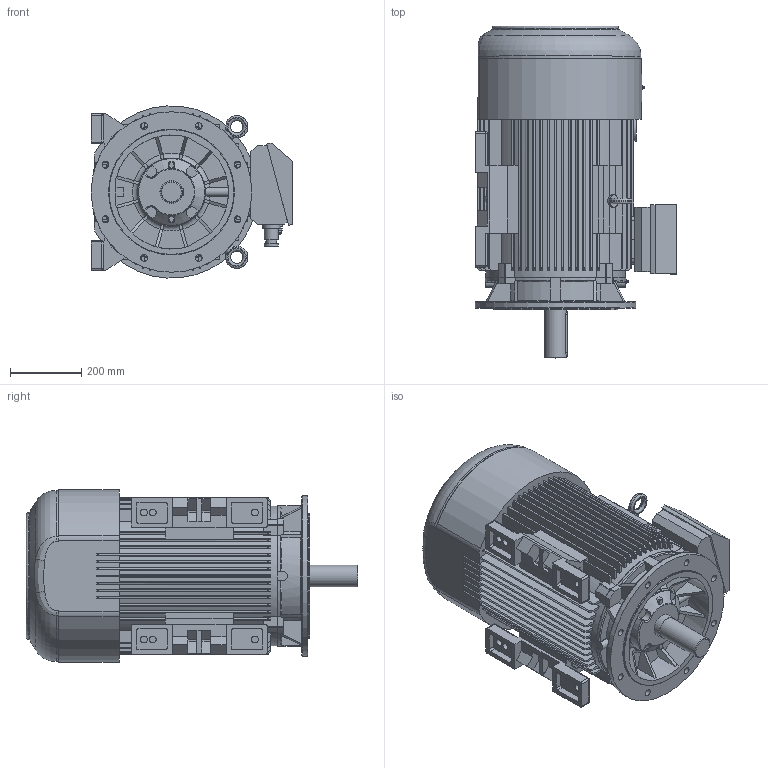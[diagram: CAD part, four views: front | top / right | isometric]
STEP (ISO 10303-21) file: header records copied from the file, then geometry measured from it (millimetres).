
FILE_DESCRIPTION( ( 'Unknown' ), '1' );
FILE_NAME( 'P:/3D_Bry³y silników skatalogowane/SIE/2SIE225/2SIE225_STEP/2SIEL225 S_M4_6 silnik.stp', 'Unknown', ( 'Unknown' ), ( 'Unknown' ), 'XStep 1.0', 'Unknown', ' ' );
FILE_SCHEMA( ( 'CONFIG_CONTROL_DESIGN' ) );
Length unit declared in the file: millimetre
Products named in the file (1): 1
Bounding box: 565.05 x 930.18 x 482.33 mm (x, y, z)
Volume: 117223285.6 mm3; surface area: 3262867.1 mm2
Topology: 1 solids, 5 shells, 975 faces, 2685 edges, 1743 vertices
Faces by surface type: plane 625, cylinder 266, torus 50, cone 16, sphere 10, bspline 8
Full cylindrical faces by diameter (mm): 1.6 x2, 5 x4, 10 x3, 12.891 x1, 19 x14, 20 x1, 22.969 x1, 26.249 x1, 27 x1, 30 x4, 35 x4, 40 x4, 47 x2, 60 x1, 64.5 x1, 188 x1, 190 x1, 349.991 x1, 449.991 x1
Entity records: 34361 total; most frequent: CARTESIAN_POINT 9602, ORIENTED_EDGE 5160, DIRECTION 5113, EDGE_CURVE 2580, AXIS2_PLACEMENT_3D 1749, VERTEX_POINT 1724, LINE 1615, VECTOR 1615
